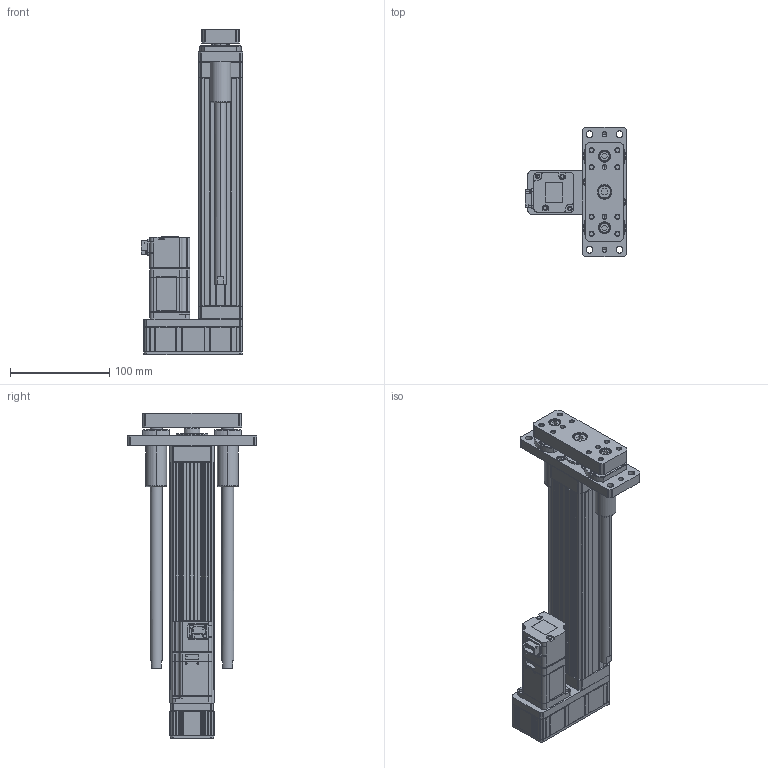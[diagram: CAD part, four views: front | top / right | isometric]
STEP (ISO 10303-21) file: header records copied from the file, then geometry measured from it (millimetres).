
FILE_DESCRIPTION (( 'STEP AP203' ), '1' );
FILE_NAME ('ANS045-GP150-05(10)-W10.STEP', '2019-02-14T03:11:34', ( 'user' ), ( '' ), 'SwSTEP 2.0', 'SolidWorks 2013', '' );
FILE_SCHEMA (( 'CONFIG_CONTROL_DESIGN' ));
Length unit declared in the file: millimetre
Products named in the file (4): ANS045 GP150 VER2; ANS045 ROD ST150 G; SGMJV_01A_A21; ANS045-GP150-05(10)-W10
Assembly tree (3 placements, depth 2):
  ANS045-GP150-05(10)-W10
    ANS045 GP150 VER2
    ANS045 ROD ST150 G
    SGMJV_01A_A21
Bounding box: 102.3 x 130 x 327.5 mm (x, y, z)
Volume: 724401.1 mm3; surface area: 229624.7 mm2
Topology: 3 solids, 23 shells, 1437 faces, 3610 edges, 2284 vertices
Faces by surface type: plane 766, cylinder 471, cone 194, torus 4, bspline 2
Entity records: 42978 total; most frequent: CARTESIAN_POINT 8067, DIRECTION 7202, ORIENTED_EDGE 7172, EDGE_CURVE 3586, AXIS2_PLACEMENT_3D 2403, VECTOR 2396, LINE 2396, VERTEX_POINT 2284
